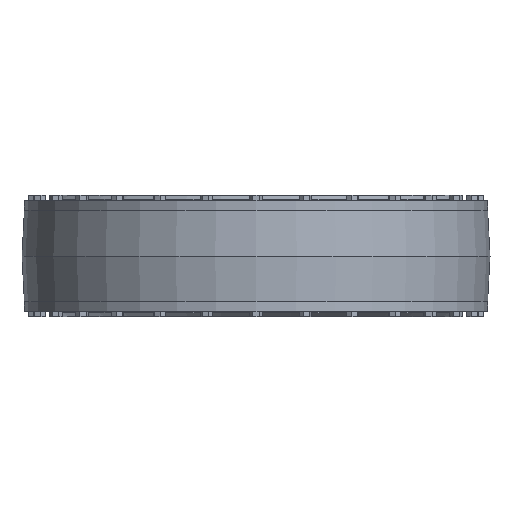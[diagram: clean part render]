
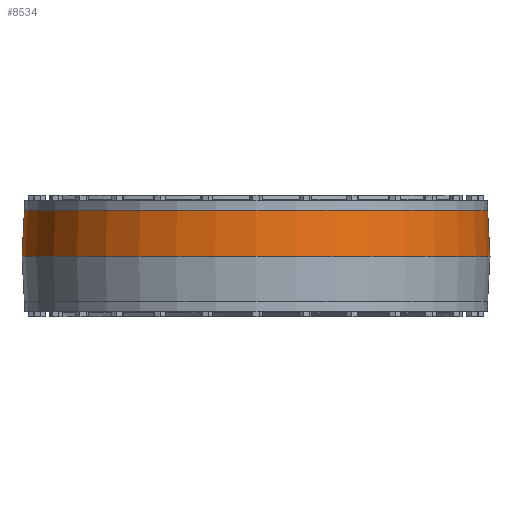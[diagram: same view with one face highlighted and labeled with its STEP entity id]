
A CAD part, front view. The second image highlights one B-rep face of the part: STEP entity #8534.
In plain terms, the highlighted conical face has half-angle 3 degrees and reference radius 389.357 mm.
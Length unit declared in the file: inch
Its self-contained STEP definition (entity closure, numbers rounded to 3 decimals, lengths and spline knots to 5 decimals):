
#66=CONICAL_SURFACE('',#9059,15.329,0.052);
#212=CIRCLE('',#9057,15.25);
#213=CIRCLE('',#9058,15.25);
#214=CIRCLE('',#9060,15.40801);
#215=CIRCLE('',#9061,15.40801);
#642=FACE_OUTER_BOUND('',#1141,.T.);
#1141=EDGE_LOOP('',(#7253,#7254,#7255,#7256,#7257,#7258));
#2170=LINE('',#13428,#3199);
#3199=VECTOR('',#11115,15.329);
#3946=VERTEX_POINT('',#13418);
#3947=VERTEX_POINT('',#13419);
#3948=VERTEX_POINT('',#13424);
#3949=VERTEX_POINT('',#13425);
#5049=EDGE_CURVE('',#3946,#3947,#212,.T.);
#5050=EDGE_CURVE('',#3947,#3946,#213,.T.);
#5052=EDGE_CURVE('',#3948,#3949,#214,.T.);
#5053=EDGE_CURVE('',#3949,#3948,#215,.T.);
#5054=EDGE_CURVE('',#3949,#3947,#2170,.T.);
#7253=ORIENTED_EDGE('',*,*,#5052,.F.);
#7254=ORIENTED_EDGE('',*,*,#5053,.F.);
#7255=ORIENTED_EDGE('',*,*,#5054,.T.);
#7256=ORIENTED_EDGE('',*,*,#5050,.T.);
#7257=ORIENTED_EDGE('',*,*,#5049,.T.);
#7258=ORIENTED_EDGE('',*,*,#5054,.F.);
#8534=ADVANCED_FACE('',(#642),#66,.T.);
#9057=AXIS2_PLACEMENT_3D('',#13420,#11104,#11105);
#9058=AXIS2_PLACEMENT_3D('',#13421,#11106,#11107);
#9059=AXIS2_PLACEMENT_3D('',#13423,#11109,#11110);
#9060=AXIS2_PLACEMENT_3D('',#13426,#11111,#11112);
#9061=AXIS2_PLACEMENT_3D('',#13427,#11113,#11114);
#11104=DIRECTION('center_axis',(0.,0.,-1.));
#11105=DIRECTION('ref_axis',(1.,0.,0.));
#11106=DIRECTION('center_axis',(0.,0.,-1.));
#11107=DIRECTION('ref_axis',(1.,0.,0.));
#11109=DIRECTION('center_axis',(0.,0.,-1.));
#11110=DIRECTION('ref_axis',(0.,1.,0.));
#11111=DIRECTION('center_axis',(0.,0.,-1.));
#11112=DIRECTION('ref_axis',(1.,0.,0.));
#11113=DIRECTION('center_axis',(0.,0.,-1.));
#11114=DIRECTION('ref_axis',(1.,0.,0.));
#11115=DIRECTION('',(0.,0.052,0.999));
#13418=CARTESIAN_POINT('',(0.,15.25,3.015));
#13419=CARTESIAN_POINT('',(0.,-15.25,3.015));
#13420=CARTESIAN_POINT('Origin',(0.,0.,3.015));
#13421=CARTESIAN_POINT('Origin',(0.,0.,3.015));
#13423=CARTESIAN_POINT('Origin',(0.,0.,1.5075));
#13424=CARTESIAN_POINT('',(0.,15.40801,0.));
#13425=CARTESIAN_POINT('',(0.,-15.40801,0.));
#13426=CARTESIAN_POINT('Origin',(0.,0.,0.));
#13427=CARTESIAN_POINT('Origin',(0.,0.,0.));
#13428=CARTESIAN_POINT('',(0.,-15.329,1.5075));
